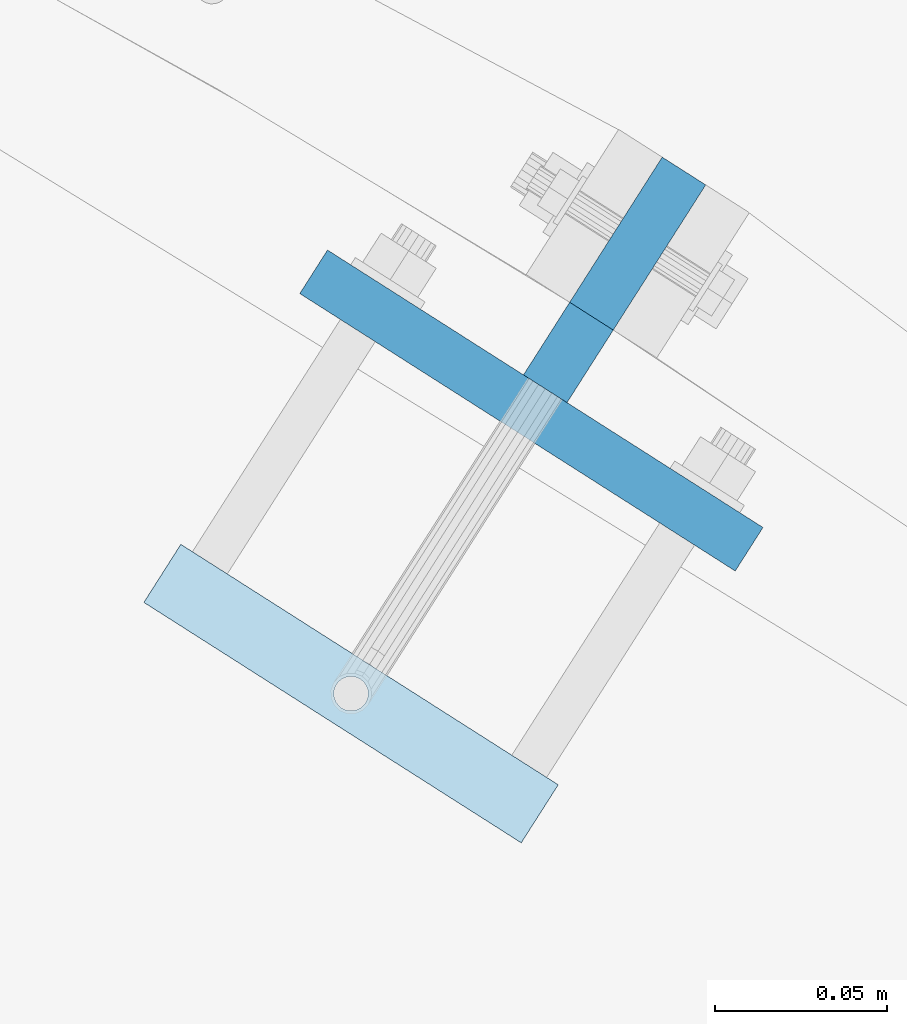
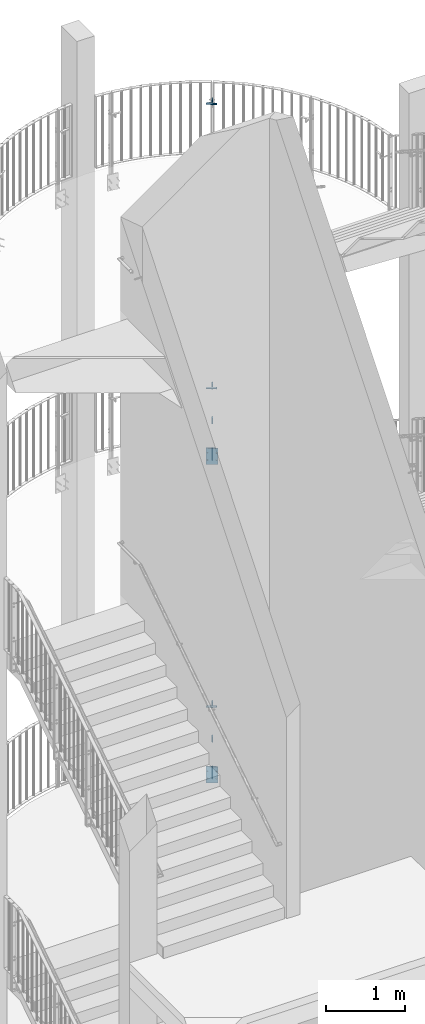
# One storey, part 118 of 296: 12 plates, 25 openings.
"""IFC2X3 building model written with IfcOpenShell, lengths in millimetres."""

from ifc_helpers import new_model, entity, si_unit, converted_unit, frame, frame_2d, origin, origin_with_axes, origin_2d_with_axis, place, context, project, spatial, polyline, circle, outline, extrude, material, layer, layer_set, element, save


model = new_model("IFC2X3")

# Units and contexts
model_context = context("Model", 3, precision=1e-09, world=origin_with_axes())
ifc_project = project(units=[si_unit("LENGTHUNIT", "METRE", prefix="MILLI"), si_unit("AREAUNIT", "SQUARE_METRE"), si_unit("VOLUMEUNIT", "CUBIC_METRE"), converted_unit("PLANEANGLEUNIT", "DEGREE", entity("IfcPlaneAngleMeasure", 0.01745329), si_unit("PLANEANGLEUNIT", "RADIAN"), dimensions=[0, 0, 0, 0, 0, 0, 0])], contexts=[model_context])

# Site, building, storey
site_placement = place(None, origin_with_axes())
site = spatial("IfcSite", under=ifc_project, at=site_placement, Name="TZD-S?d | Treppenhausgel?nder", CompositionType="ELEMENT")
building_placement = place(site_placement, origin_with_axes())
building = spatial("IfcBuilding", under=site, at=building_placement, Name="Struktur 1", CompositionType="ELEMENT")
storey_placement = place(building_placement, origin_with_axes())
storey = spatial("IfcBuildingStorey", under=building, at=storey_placement, Name="Default Storey", CompositionType="ELEMENT", Elevation=0.0)

# Plate, openings
ifc_material = material(Name="S235JR")
ifc_layer_1 = layer(ifc_material, 15.0)
ifc_layer_set_1 = layer_set([ifc_layer_1], Name="S235JR")
plate_1_placement = place(None, frame((4525.200393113, 2425.770170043, 12520.001), z_axis=(-0.843391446, 0.537299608, 0.0), x_axis=(-0.537299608, -0.843391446, 0.0)))
plate_1 = element("IfcPlate", 1, at=plate_1_placement, inside=storey, material=ifc_layer_set_1, Name="Girder", ObjectType="Girder", context=model_context, shape_type="SweptSolid", body=[
    extrude(outline(polyline([(-25.0, -40.0), (25.0, -40.0), (25.0, 40.0), (-25.0, 40.0), (-25.0, -40.0)])), origin_with_axes(), (0.0, 0.0, -1.0), 15.0),
])
opening_1_placement = place(plate_1_placement, frame((-5.001, 24.999999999, 0.5), z_axis=(0.0, 0.0, 1.0), x_axis=(1.0, 0.0, 0.0)))
element("IfcOpeningElement", 2, at=opening_1_placement, cuts=plate_1, ObjectType="Opening", context=model_context, shape_type="SweptSolid", body=[
    extrude(circle(Radius=5.001, at=frame_2d((5.001, 0.0), x_axis=(1.0, 0.0))), origin(), (0.0, 0.0, -1.0), 16.0),
])
opening_2_placement = place(plate_1_placement, frame((-5.001, -25.000000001, 0.5), z_axis=(0.0, 0.0, 1.0), x_axis=(1.0, 0.0, 0.0)))
element("IfcOpeningElement", 3, at=opening_2_placement, cuts=plate_1, ObjectType="Opening", context=model_context, shape_type="SweptSolid", body=[
    extrude(circle(Radius=5.001, at=frame_2d((5.001, 0.0), x_axis=(1.0, 0.0))), origin(), (0.0, 0.0, -1.0), 16.0),
])

# Plate, opening
ifc_layer_2 = layer(ifc_material, 10.0)
ifc_layer_set_2 = layer_set([ifc_layer_2], Name="S235JR")
plate_2_placement = place(None, frame((4448.244389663, 2291.01474888, 12585.0), z_axis=(0.0, 0.0, -1.0), x_axis=(0.843391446, -0.537299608, 0.0)))
plate_2 = element("IfcPlate", 4, at=plate_2_placement, inside=storey, material=ifc_layer_set_2, Name="Girder", ObjectType="Girder", context=model_context, shape_type="SweptSolid", body=[
    extrude(outline(polyline([(-65.0, -10.0), (65.0, -10.0), (65.0, 10.0), (-65.0, 10.0), (-65.0, -10.0)])), origin_with_axes(), (0.0, 0.0, -1.0), 10.0),
])
opening_3_placement = place(plate_2_placement, frame((-6.35e-07, 1.087e-06, 0.5), z_axis=(0.0, 0.0, -1.0), x_axis=(0.843391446, -0.537299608, 0.0)))
element("IfcOpeningElement", 5, at=opening_3_placement, cuts=plate_2, ObjectType="Opening", context=model_context, shape_type="SweptSolid", body=[
    extrude(circle(Radius=5.001, at=origin_2d_with_axis()), origin(), (0.0, 0.0, 1.0), 11.0),
])

plate_3_placement = place(None, frame((4448.244389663, 2291.01474888, 8210.0), z_axis=(0.0, 0.0, -1.0), x_axis=(0.843391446, -0.537299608, 0.0)))
plate_3 = element("IfcPlate", 6, at=plate_3_placement, inside=storey, material=ifc_layer_set_2, Name="Girder", ObjectType="Girder", context=model_context, shape_type="SweptSolid", body=[
    extrude(outline(polyline([(-65.0, -10.0), (65.0, -10.0), (65.0, 10.0), (-65.0, 10.0), (-65.0, -10.0)])), origin_with_axes(), (0.0, 0.0, -1.0), 10.0),
])
opening_4_placement = place(plate_3_placement, frame((-1.98e-07, 3.43e-07, 0.5), z_axis=(0.0, 0.0, -1.0), x_axis=(0.843391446, -0.537299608, 0.0)))
element("IfcOpeningElement", 7, at=opening_4_placement, cuts=plate_3, ObjectType="Opening", context=model_context, shape_type="SweptSolid", body=[
    extrude(circle(Radius=5.001, at=origin_2d_with_axis()), origin(), (0.0, 0.0, 1.0), 11.0),
])

# Plate, openings
plate_4_placement = place(None, frame((4525.200393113, 2425.770170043, 8145.001), z_axis=(-0.843391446, 0.537299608, 0.0), x_axis=(-0.537299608, -0.843391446, 0.0)))
plate_4 = element("IfcPlate", 8, at=plate_4_placement, inside=storey, material=ifc_layer_set_1, Name="Girder", ObjectType="Girder", context=model_context, shape_type="SweptSolid", body=[
    extrude(outline(polyline([(-25.0, -40.0), (25.0, -40.0), (25.0, 40.0), (-25.0, 40.0), (-25.0, -40.0)])), origin_with_axes(), (0.0, 0.0, -1.0), 15.0),
])
opening_5_placement = place(plate_4_placement, frame((-5.001, 24.999999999, 0.5), z_axis=(0.0, 0.0, 1.0), x_axis=(1.0, 0.0, 0.0)))
element("IfcOpeningElement", 9, at=opening_5_placement, cuts=plate_4, ObjectType="Opening", context=model_context, shape_type="SweptSolid", body=[
    extrude(circle(Radius=5.001, at=frame_2d((5.001, 0.0), x_axis=(1.0, 0.0))), origin(), (0.0, 0.0, -1.0), 16.0),
])
opening_6_placement = place(plate_4_placement, frame((-5.001, -25.000000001, 0.5), z_axis=(0.0, 0.0, 1.0), x_axis=(1.0, 0.0, 0.0)))
element("IfcOpeningElement", 10, at=opening_6_placement, cuts=plate_4, ObjectType="Opening", context=model_context, shape_type="SweptSolid", body=[
    extrude(circle(Radius=5.001, at=frame_2d((5.001, 0.0), x_axis=(1.0, 0.0))), origin(), (0.0, 0.0, -1.0), 16.0),
])

plate_5_placement = place(None, frame((4525.200393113, 2425.770170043, 7615.001), z_axis=(-0.843391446, 0.537299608, 0.0), x_axis=(-0.537299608, -0.843391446, 0.0)))
plate_5 = element("IfcPlate", 11, at=plate_5_placement, inside=storey, material=ifc_layer_set_1, Name="Girder", ObjectType="Girder", context=model_context, shape_type="SweptSolid", body=[
    extrude(outline(polyline([(-25.0, -40.0), (25.0, -40.0), (25.0, 40.0), (-25.0, 40.0), (-25.0, -40.0)])), origin_with_axes(), (0.0, 0.0, -1.0), 15.0),
])
opening_7_placement = place(plate_5_placement, frame((-5.001, 24.999999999, 0.5), z_axis=(0.0, 0.0, 1.0), x_axis=(1.0, 0.0, 0.0)))
element("IfcOpeningElement", 12, at=opening_7_placement, cuts=plate_5, ObjectType="Opening", context=model_context, shape_type="SweptSolid", body=[
    extrude(circle(Radius=5.001, at=frame_2d((5.001, 0.0), x_axis=(1.0, 0.0))), origin(), (0.0, 0.0, -1.0), 16.0),
])
opening_8_placement = place(plate_5_placement, frame((-5.001, -25.000000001, 0.5), z_axis=(0.0, 0.0, 1.0), x_axis=(1.0, 0.0, 0.0)))
element("IfcOpeningElement", 13, at=opening_8_placement, cuts=plate_5, ObjectType="Opening", context=model_context, shape_type="SweptSolid", body=[
    extrude(circle(Radius=5.001, at=frame_2d((5.001, 0.0), x_axis=(1.0, 0.0))), origin(), (0.0, 0.0, -1.0), 16.0),
])

plate_6_placement = place(None, frame((4518.484148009, 2415.22777697, 7100.001), z_axis=(-0.843391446, 0.537299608, 0.0), x_axis=(-0.537299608, -0.843391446, 0.0)))
plate_6 = element("IfcPlate", 14, at=plate_6_placement, inside=storey, material=ifc_layer_set_1, Name="Girder", ObjectType="Girder", context=model_context, shape_type="SweptSolid", body=[
    extrude(outline(polyline([(-37.5, -75.0), (37.5, -75.0), (37.5, 75.0), (-37.5, 75.0), (-37.5, -75.0)])), origin_with_axes(), (0.0, 0.0, -1.0), 15.0),
])
opening_9_placement = place(plate_6_placement, frame((-19.501, 50.0, 0.5), z_axis=(0.0, 0.0, 1.0), x_axis=(1.0, 0.0, 0.0)))
element("IfcOpeningElement", 15, at=opening_9_placement, cuts=plate_6, ObjectType="Opening", context=model_context, shape_type="SweptSolid", body=[
    extrude(circle(Radius=7.001, at=frame_2d((7.001, 0.0), x_axis=(1.0, 0.0))), origin(), (0.0, 0.0, -1.0), 16.0),
])
opening_10_placement = place(plate_6_placement, frame((-19.501, -50.0, 0.5), z_axis=(0.0, 0.0, 1.0), x_axis=(1.0, 0.0, 0.0)))
element("IfcOpeningElement", 16, at=opening_10_placement, cuts=plate_6, ObjectType="Opening", context=model_context, shape_type="SweptSolid", body=[
    extrude(circle(Radius=7.001, at=frame_2d((7.001, 0.0), x_axis=(1.0, 0.0))), origin(), (0.0, 0.0, -1.0), 16.0),
])

plate_7_placement = place(None, frame((4496.601354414, 2366.919979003, 7100.001), z_axis=(-0.537299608, -0.843391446, 0.0), x_axis=(0.843391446, -0.537299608, 0.0)))
plate_7 = element("IfcPlate", 17, at=plate_7_placement, inside=storey, material=ifc_layer_set_1, Name="Girder", ObjectType="Girder", context=model_context, shape_type="SweptSolid", body=[
    extrude(outline(polyline([(-75.0, -125.0), (75.0, -125.0), (75.0, 125.0), (-75.0, 125.0), (-75.0, -125.0)])), origin_with_axes(), (0.0, 0.0, -1.0), 15.0),
])
opening_11_placement = place(plate_7_placement, frame((47.999, 55.0, 0.5), z_axis=(0.0, 0.0, 1.0), x_axis=(1.0, 0.0, 0.0)))
element("IfcOpeningElement", 18, at=opening_11_placement, cuts=plate_7, ObjectType="Opening", context=model_context, shape_type="SweptSolid", body=[
    extrude(circle(Radius=7.001, at=frame_2d((7.001, 0.0), x_axis=(1.0, 0.0))), origin(), (0.0, 0.0, -1.0), 16.0),
])
opening_12_placement = place(plate_7_placement, frame((-62.001, 55.0, 0.5), z_axis=(0.0, 0.0, 1.0), x_axis=(1.0, 0.0, 0.0)))
element("IfcOpeningElement", 19, at=opening_12_placement, cuts=plate_7, ObjectType="Opening", context=model_context, shape_type="SweptSolid", body=[
    extrude(circle(Radius=7.001, at=frame_2d((7.001, 0.0), x_axis=(1.0, 0.0))), origin(), (0.0, 0.0, -1.0), 16.0),
])
opening_13_placement = place(plate_7_placement, frame((47.999, -55.0, 0.5), z_axis=(0.0, 0.0, 1.0), x_axis=(1.0, 0.0, 0.0)))
element("IfcOpeningElement", 20, at=opening_13_placement, cuts=plate_7, ObjectType="Opening", context=model_context, shape_type="SweptSolid", body=[
    extrude(circle(Radius=7.001, at=frame_2d((7.001, 0.0), x_axis=(1.0, 0.0))), origin(), (0.0, 0.0, -1.0), 16.0),
])
opening_14_placement = place(plate_7_placement, frame((-62.001, -55.0, 0.5), z_axis=(0.0, 0.0, 1.0), x_axis=(1.0, 0.0, 0.0)))
element("IfcOpeningElement", 21, at=opening_14_placement, cuts=plate_7, ObjectType="Opening", context=model_context, shape_type="SweptSolid", body=[
    extrude(circle(Radius=7.001, at=frame_2d((7.001, 0.0), x_axis=(1.0, 0.0))), origin(), (0.0, 0.0, -1.0), 16.0),
])

# Plate, opening
plate_8_placement = place(None, frame((4448.244389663, 2291.01474888, 3310.0), z_axis=(0.0, 0.0, -1.0), x_axis=(0.843391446, -0.537299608, 0.0)))
plate_8 = element("IfcPlate", 22, at=plate_8_placement, inside=storey, material=ifc_layer_set_2, Name="Girder", ObjectType="Girder", context=model_context, shape_type="SweptSolid", body=[
    extrude(outline(polyline([(-65.0, -10.0), (65.0, -10.0), (65.0, 10.0), (-65.0, 10.0), (-65.0, -10.0)])), origin_with_axes(), (0.0, 0.0, -1.0), 10.0),
])
opening_15_placement = place(plate_8_placement, frame((2.03e-07, -3.6e-07, 0.5), z_axis=(0.0, 0.0, -1.0), x_axis=(0.843391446, -0.537299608, 0.0)))
element("IfcOpeningElement", 23, at=opening_15_placement, cuts=plate_8, ObjectType="Opening", context=model_context, shape_type="SweptSolid", body=[
    extrude(circle(Radius=5.001, at=origin_2d_with_axis()), origin(), (0.0, 0.0, 1.0), 11.0),
])

# Plate, openings
plate_9_placement = place(None, frame((4525.200393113, 2425.770170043, 3245.001), z_axis=(-0.843391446, 0.537299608, 0.0), x_axis=(-0.537299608, -0.843391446, 0.0)))
plate_9 = element("IfcPlate", 24, at=plate_9_placement, inside=storey, material=ifc_layer_set_1, Name="Girder", ObjectType="Girder", context=model_context, shape_type="SweptSolid", body=[
    extrude(outline(polyline([(-25.0, -40.0), (25.0, -40.0), (25.0, 40.0), (-25.0, 40.0), (-25.0, -40.0)])), origin_with_axes(), (0.0, 0.0, -1.0), 15.0),
])
opening_16_placement = place(plate_9_placement, frame((-5.001, 24.999999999, 0.5), z_axis=(0.0, 0.0, 1.0), x_axis=(1.0, 0.0, 0.0)))
element("IfcOpeningElement", 25, at=opening_16_placement, cuts=plate_9, ObjectType="Opening", context=model_context, shape_type="SweptSolid", body=[
    extrude(circle(Radius=5.001, at=frame_2d((5.001, 0.0), x_axis=(1.0, 0.0))), origin(), (0.0, 0.0, -1.0), 16.0),
])
opening_17_placement = place(plate_9_placement, frame((-5.001, -25.000000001, 0.5), z_axis=(0.0, 0.0, 1.0), x_axis=(1.0, 0.0, 0.0)))
element("IfcOpeningElement", 26, at=opening_17_placement, cuts=plate_9, ObjectType="Opening", context=model_context, shape_type="SweptSolid", body=[
    extrude(circle(Radius=5.001, at=frame_2d((5.001, 0.0), x_axis=(1.0, 0.0))), origin(), (0.0, 0.0, -1.0), 16.0),
])

plate_10_placement = place(None, frame((4525.200393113, 2425.770170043, 2715.001), z_axis=(-0.843391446, 0.537299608, 0.0), x_axis=(-0.537299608, -0.843391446, 0.0)))
plate_10 = element("IfcPlate", 27, at=plate_10_placement, inside=storey, material=ifc_layer_set_1, Name="Girder", ObjectType="Girder", context=model_context, shape_type="SweptSolid", body=[
    extrude(outline(polyline([(-25.0, -40.0), (25.0, -40.0), (25.0, 40.0), (-25.0, 40.0), (-25.0, -40.0)])), origin_with_axes(), (0.0, 0.0, -1.0), 15.0),
])
opening_18_placement = place(plate_10_placement, frame((-5.001, 24.999999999, 0.5), z_axis=(0.0, 0.0, 1.0), x_axis=(1.0, 0.0, 0.0)))
element("IfcOpeningElement", 28, at=opening_18_placement, cuts=plate_10, ObjectType="Opening", context=model_context, shape_type="SweptSolid", body=[
    extrude(circle(Radius=5.001, at=frame_2d((5.001, 0.0), x_axis=(1.0, 0.0))), origin(), (0.0, 0.0, -1.0), 16.0),
])
opening_19_placement = place(plate_10_placement, frame((-5.001, -25.000000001, 0.5), z_axis=(0.0, 0.0, 1.0), x_axis=(1.0, 0.0, 0.0)))
element("IfcOpeningElement", 29, at=opening_19_placement, cuts=plate_10, ObjectType="Opening", context=model_context, shape_type="SweptSolid", body=[
    extrude(circle(Radius=5.001, at=frame_2d((5.001, 0.0), x_axis=(1.0, 0.0))), origin(), (0.0, 0.0, -1.0), 16.0),
])

plate_11_placement = place(None, frame((4518.484148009, 2415.22777697, 2200.001), z_axis=(-0.843391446, 0.537299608, 0.0), x_axis=(-0.537299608, -0.843391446, 0.0)))
plate_11 = element("IfcPlate", 30, at=plate_11_placement, inside=storey, material=ifc_layer_set_1, Name="Girder", ObjectType="Girder", context=model_context, shape_type="SweptSolid", body=[
    extrude(outline(polyline([(-37.5, -75.0), (37.5, -75.0), (37.5, 75.0), (-37.5, 75.0), (-37.5, -75.0)])), origin_with_axes(), (0.0, 0.0, -1.0), 15.0),
])
opening_20_placement = place(plate_11_placement, frame((-19.501, 50.0, 0.5), z_axis=(0.0, 0.0, 1.0), x_axis=(1.0, 0.0, 0.0)))
element("IfcOpeningElement", 31, at=opening_20_placement, cuts=plate_11, ObjectType="Opening", context=model_context, shape_type="SweptSolid", body=[
    extrude(circle(Radius=7.001, at=frame_2d((7.001, 0.0), x_axis=(1.0, 0.0))), origin(), (0.0, 0.0, -1.0), 16.0),
])
opening_21_placement = place(plate_11_placement, frame((-19.501, -50.0, 0.5), z_axis=(0.0, 0.0, 1.0), x_axis=(1.0, 0.0, 0.0)))
element("IfcOpeningElement", 32, at=opening_21_placement, cuts=plate_11, ObjectType="Opening", context=model_context, shape_type="SweptSolid", body=[
    extrude(circle(Radius=7.001, at=frame_2d((7.001, 0.0), x_axis=(1.0, 0.0))), origin(), (0.0, 0.0, -1.0), 16.0),
])

plate_12_placement = place(None, frame((4496.601354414, 2366.919979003, 2200.001), z_axis=(-0.537299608, -0.843391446, 0.0), x_axis=(0.843391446, -0.537299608, 0.0)))
plate_12 = element("IfcPlate", 33, at=plate_12_placement, inside=storey, material=ifc_layer_set_1, Name="Girder", ObjectType="Girder", context=model_context, shape_type="SweptSolid", body=[
    extrude(outline(polyline([(-75.0, -125.0), (75.0, -125.0), (75.0, 125.0), (-75.0, 125.0), (-75.0, -125.0)])), origin_with_axes(), (0.0, 0.0, -1.0), 15.0),
])
opening_22_placement = place(plate_12_placement, frame((47.999, 55.0, 0.5), z_axis=(0.0, 0.0, 1.0), x_axis=(1.0, 0.0, 0.0)))
element("IfcOpeningElement", 34, at=opening_22_placement, cuts=plate_12, ObjectType="Opening", context=model_context, shape_type="SweptSolid", body=[
    extrude(circle(Radius=7.001, at=frame_2d((7.001, 0.0), x_axis=(1.0, 0.0))), origin(), (0.0, 0.0, -1.0), 16.0),
])
opening_23_placement = place(plate_12_placement, frame((-62.001, 55.0, 0.5), z_axis=(0.0, 0.0, 1.0), x_axis=(1.0, 0.0, 0.0)))
element("IfcOpeningElement", 35, at=opening_23_placement, cuts=plate_12, ObjectType="Opening", context=model_context, shape_type="SweptSolid", body=[
    extrude(circle(Radius=7.001, at=frame_2d((7.001, 0.0), x_axis=(1.0, 0.0))), origin(), (0.0, 0.0, -1.0), 16.0),
])
opening_24_placement = place(plate_12_placement, frame((47.999, -55.0, 0.5), z_axis=(0.0, 0.0, 1.0), x_axis=(1.0, 0.0, 0.0)))
element("IfcOpeningElement", 36, at=opening_24_placement, cuts=plate_12, ObjectType="Opening", context=model_context, shape_type="SweptSolid", body=[
    extrude(circle(Radius=7.001, at=frame_2d((7.001, 0.0), x_axis=(1.0, 0.0))), origin(), (0.0, 0.0, -1.0), 16.0),
])
opening_25_placement = place(plate_12_placement, frame((-62.001, -55.0, 0.5), z_axis=(0.0, 0.0, 1.0), x_axis=(1.0, 0.0, 0.0)))
element("IfcOpeningElement", 37, at=opening_25_placement, cuts=plate_12, ObjectType="Opening", context=model_context, shape_type="SweptSolid", body=[
    extrude(circle(Radius=7.001, at=frame_2d((7.001, 0.0), x_axis=(1.0, 0.0))), origin(), (0.0, 0.0, -1.0), 16.0),
])

save(model, "model.ifc")
